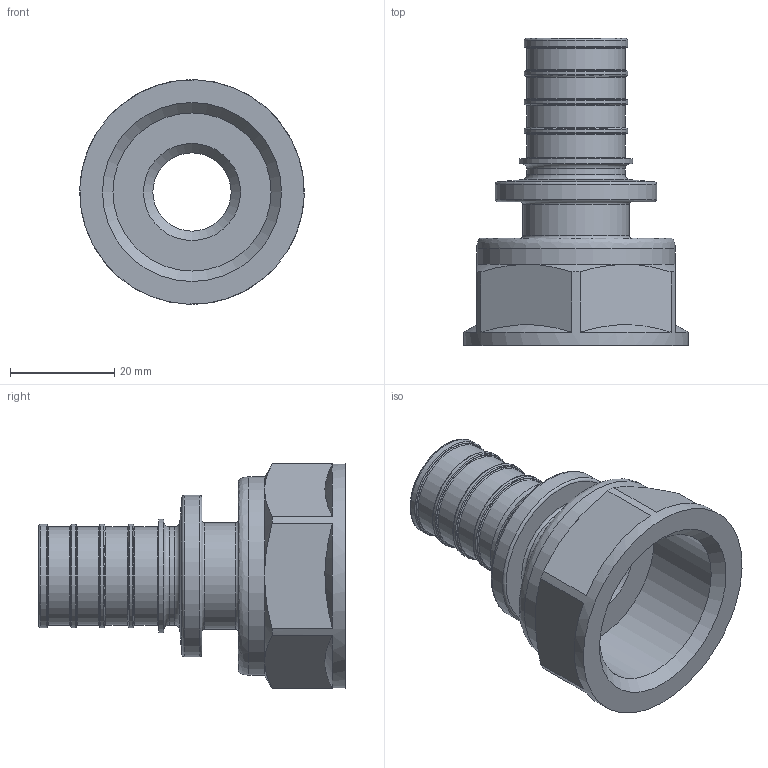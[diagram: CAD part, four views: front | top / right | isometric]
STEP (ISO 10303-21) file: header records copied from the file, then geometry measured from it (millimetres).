
FILE_DESCRIPTION(('STEP AP203'), '1');
FILE_NAME('ﾂﾐ.753124.007 - VTm.402.G.002506 ﾔ頸. 浯葢. G 1', '2024-01-23T13:16:40', ('IT'), ('VESTA'), 'C3D Converter', 'C3D Toolkit', '');
FILE_SCHEMA(('CONFIG_CONTROL_DESIGN'));
Length unit declared in the file: millimetre
Products named in the file (1): ВР.753124.007
Bounding box: 43 x 58.8 x 43 mm (x, y, z)
Volume: 18465.5 mm3; surface area: 11923.4 mm2
Topology: 1 solids, 1 shells, 75 faces, 148 edges, 87 vertices
Faces by surface type: torus 22, plane 20, cylinder 16, cone 16, bspline 1
Full cylindrical faces by diameter (mm): 15 x1, 18.8 x5, 19.8 x4, 20.4 x1, 21.8 x1, 30.292 x1, 30.9 x1, 38 x1, 43 x1
Entity records: 2396 total; most frequent: CARTESIAN_POINT 962, DIRECTION 312, ORIENTED_EDGE 210, AXIS2_PLACEMENT_3D 150, EDGE_LOOP 132, EDGE_CURVE 105, VERTEX_POINT 91, FACE_OUTER_BOUND 82
